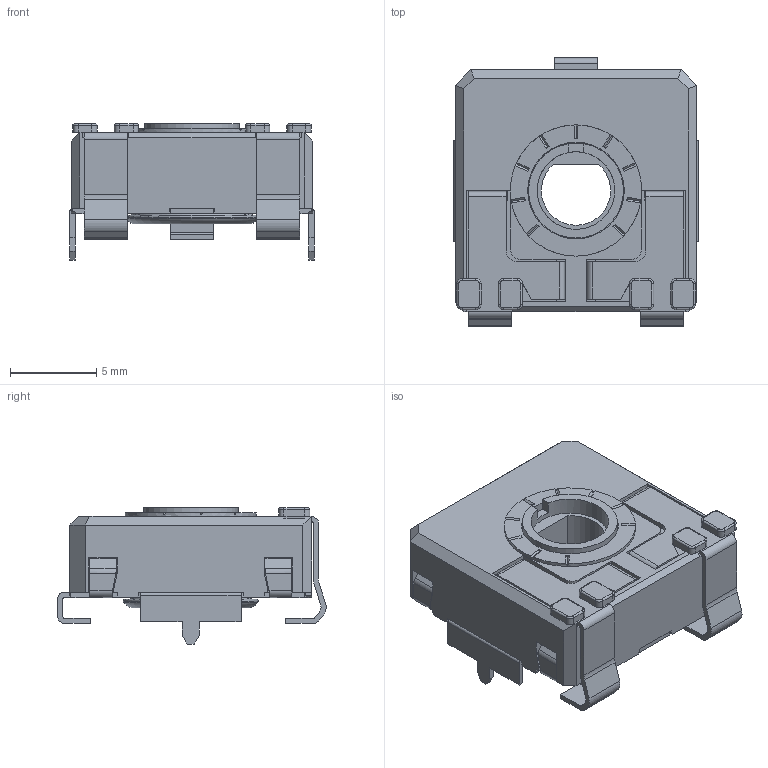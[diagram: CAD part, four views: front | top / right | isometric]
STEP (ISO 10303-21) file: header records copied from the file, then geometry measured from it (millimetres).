
FILE_DESCRIPTION(/* description */ (''),/* implementation_level */ '2;1');
FILE_NAME(/* name */ '\\SERVERACP\intercambio\Ignacio Santa Cecilia\Nueva WEB 2025\CA14 - CE14\CA14FVSMD RT-RO CY.stp',/* time_stamp */ '2025-07-01T12:15:49+02:00',/* author */ ('CEM'),/* organization */ (''),/* preprocessor_version */ 'ST-DEVELOPER v17',/* originating_system */ 'Autodesk Inventor 2018',/* authorisation */ '');
FILE_SCHEMA (('AUTOMOTIVE_DESIGN { 1 0 10303 214 3 1 1 }'));
Length unit declared in the file: millimetre
Products named in the file (1): CARCASA CA14 PGA
Bounding box: 14.15 x 15.55 x 7.9 mm (x, y, z)
Volume: 542.3 mm3; surface area: 1516.2 mm2
Topology: 1 solids, 1 shells, 569 faces, 1617 edges, 1035 vertices
Faces by surface type: plane 424, cylinder 108, torus 23, bspline 8, cone 6
Full cylindrical faces by diameter (mm): 4.5 x1, 5.5 x1, 5.6 x1, 5.752 x1, 6.8 x1, 7.6 x1
Entity records: 18729 total; most frequent: CARTESIAN_POINT 3519, ORIENTED_EDGE 3234, DIRECTION 2997, EDGE_CURVE 1617, LINE 1271, VECTOR 1271, VERTEX_POINT 1035, AXIS2_PLACEMENT_3D 863
